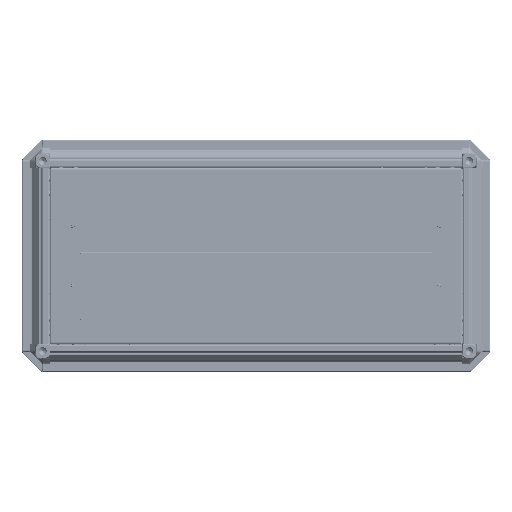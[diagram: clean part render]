
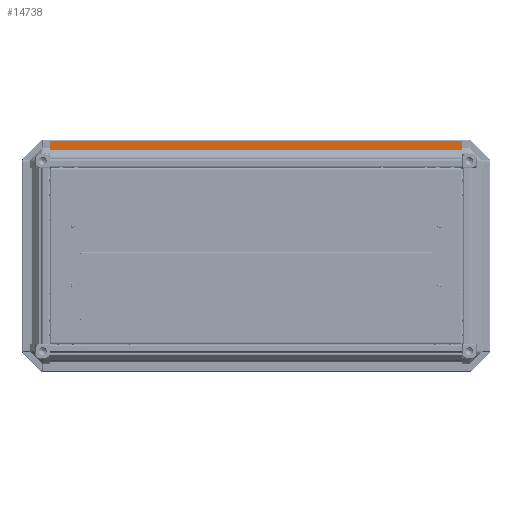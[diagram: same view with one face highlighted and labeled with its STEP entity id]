
A CAD part, front view. The second image highlights one B-rep face of the part: STEP entity #14738.
In plain terms, the highlighted planar face has unit normal (0, -1, 0) as drawn and (-0.707, -0.707, 0) by its records, which use the part's own axes.
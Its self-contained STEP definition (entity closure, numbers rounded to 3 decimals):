
#1442 = LINE ( 'NONE', #58238, #37548 ) ;
#2689 = CARTESIAN_POINT ( 'NONE',  ( 22.386, -7.932, 698. ) ) ;
#3553 = VERTEX_POINT ( 'NONE', #59614 ) ;
#5630 = EDGE_CURVE ( 'NONE', #21454, #57344, #7278, .T. ) ;
#7278 = LINE ( 'NONE', #50358, #44309 ) ;
#7539 = ORIENTED_EDGE ( 'NONE', *, *, #5630, .F. ) ;
#8278 = EDGE_CURVE ( 'NONE', #57344, #3553, #1442, .T. ) ;
#11122 = DIRECTION ( 'NONE',  ( 0., 0., -1. ) ) ;
#11969 = DIRECTION ( 'NONE',  ( -0.707, 0.707, 0. ) ) ;
#12709 = CARTESIAN_POINT ( 'NONE',  ( 12.747, 1.707, 698. ) ) ;
#13851 = CARTESIAN_POINT ( 'NONE',  ( 12.747, 1.707, 0. ) ) ;
#14248 = ORIENTED_EDGE ( 'NONE', *, *, #8278, .F. ) ;
#14545 = EDGE_LOOP ( 'NONE', ( #41782, #14248, #7539, #28160 ) ) ;
#14738 = ADVANCED_FACE ( 'NONE', ( #16054 ), #30103, .F. ) ;
#16054 = FACE_OUTER_BOUND ( 'NONE', #14545, .T. ) ;
#19169 = DIRECTION ( 'NONE',  ( 0.707, -0.707, 0. ) ) ;
#21152 = VECTOR ( 'NONE', #46459, 1000. ) ;
#21454 = VERTEX_POINT ( 'NONE', #12709 ) ;
#26339 = DIRECTION ( 'NONE',  ( 0.707, -0.707, 0. ) ) ;
#28160 = ORIENTED_EDGE ( 'NONE', *, *, #44237, .T. ) ;
#30103 = PLANE ( 'NONE',  #55886 ) ;
#31207 = LINE ( 'NONE', #60769, #21152 ) ;
#32922 = LINE ( 'NONE', #13851, #51365 ) ;
#34016 = CARTESIAN_POINT ( 'NONE',  ( 12.747, 1.707, 0. ) ) ;
#37548 = VECTOR ( 'NONE', #11122, 1000. ) ;
#41782 = ORIENTED_EDGE ( 'NONE', *, *, #51860, .T. ) ;
#44237 = EDGE_CURVE ( 'NONE', #21454, #54309, #31207, .T. ) ;
#44309 = VECTOR ( 'NONE', #26339, 1000. ) ;
#46459 = DIRECTION ( 'NONE',  ( 0., 0., -1. ) ) ;
#49149 = DIRECTION ( 'NONE',  ( 0.707, 0.707, 0. ) ) ;
#50358 = CARTESIAN_POINT ( 'NONE',  ( 12.747, 1.707, 698. ) ) ;
#51365 = VECTOR ( 'NONE', #19169, 1000. ) ;
#51860 = EDGE_CURVE ( 'NONE', #54309, #3553, #32922, .T. ) ;
#53500 = CARTESIAN_POINT ( 'NONE',  ( 12.747, 1.707, 698. ) ) ;
#54309 = VERTEX_POINT ( 'NONE', #34016 ) ;
#55886 = AXIS2_PLACEMENT_3D ( 'NONE', #53500, #49149, #11969 ) ;
#57344 = VERTEX_POINT ( 'NONE', #2689 ) ;
#58238 = CARTESIAN_POINT ( 'NONE',  ( 22.386, -7.932, 698. ) ) ;
#59614 = CARTESIAN_POINT ( 'NONE',  ( 22.386, -7.932, 0. ) ) ;
#60769 = CARTESIAN_POINT ( 'NONE',  ( 12.747, 1.707, 698. ) ) ;
